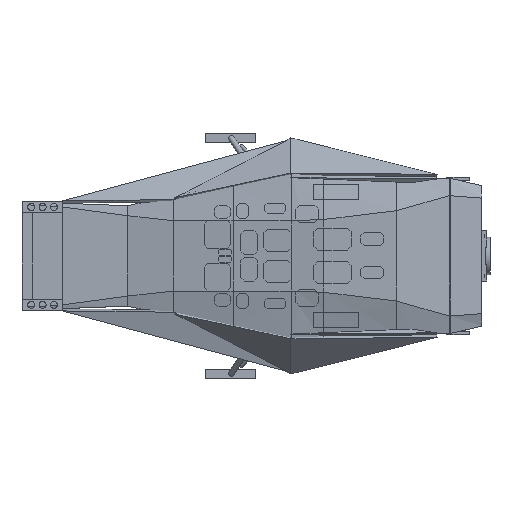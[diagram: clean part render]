
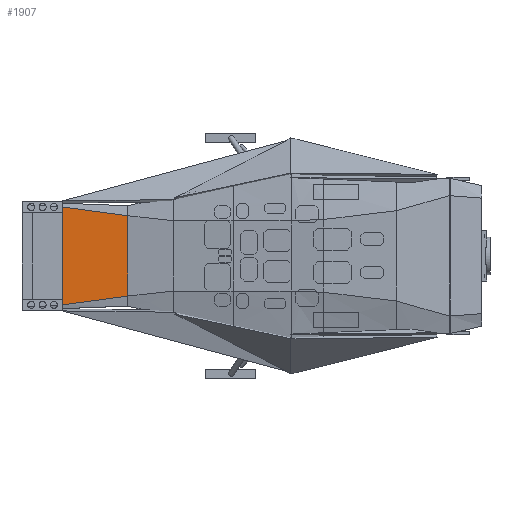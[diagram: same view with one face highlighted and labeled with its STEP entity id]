
A CAD part, top view. The second image highlights one B-rep face of the part: STEP entity #1907.
In plain terms, the highlighted free-form (B-spline) face has degree [1, 1] with [2, 2] control points.
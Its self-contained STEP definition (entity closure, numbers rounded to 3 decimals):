
#195 = B_SPLINE_SURFACE_WITH_KNOTS('',1,1,(
    (#196,#197)
    ,(#198,#199
  )),.UNSPECIFIED.,.F.,.F.,.F.,(2,2),(2,2),(0.,4.1),(0.,1.),
  .PIECEWISE_BEZIER_KNOTS.);
#196 = CARTESIAN_POINT('',(0.,28.472,3.194));
#197 = CARTESIAN_POINT('',(22.222,27.083,
    3.472));
#198 = CARTESIAN_POINT('',(0.,-28.472,3.194));
#199 = CARTESIAN_POINT('',(22.222,-27.083,
    3.472));
#317 = VERTEX_POINT('',#318);
#318 = CARTESIAN_POINT('',(22.222,-27.083,
    3.472));
#331 = B_SPLINE_SURFACE_WITH_KNOTS('',1,1,(
    (#332,#333)
    ,(#334,#335
    )),.UNSPECIFIED.,.F.,.F.,.F.,(2,2),(2,2),(0.,0.408),(0.,1.)
  ,.PIECEWISE_BEZIER_KNOTS.);
#332 = CARTESIAN_POINT('',(22.222,-27.083,
    3.472));
#333 = CARTESIAN_POINT('',(58.333,-22.222,
    4.583));
#334 = CARTESIAN_POINT('',(22.222,-29.167,
    2.917));
#335 = CARTESIAN_POINT('',(58.333,-27.778,
    3.472));
#365 = EDGE_CURVE('',#366,#317,#368,.T.);
#366 = VERTEX_POINT('',#367);
#367 = CARTESIAN_POINT('',(22.222,27.083,
    3.472));
#368 = SURFACE_CURVE('',#369,(#373,#379),.PCURVE_S1.);
#369 = LINE('',#370,#371);
#370 = CARTESIAN_POINT('',(22.222,27.083,
    3.472));
#371 = VECTOR('',#372,1.);
#372 = DIRECTION('',(0.,-1.,0.));
#373 = PCURVE('',#195,#374);
#374 = DEFINITIONAL_REPRESENTATION('',(#375),#378);
#375 = B_SPLINE_CURVE_WITH_KNOTS('',1,(#376,#377),.UNSPECIFIED.,.F.,.F.,
  (2,2),(0.,54.167),.PIECEWISE_BEZIER_KNOTS.);
#376 = CARTESIAN_POINT('',(0.,1.));
#377 = CARTESIAN_POINT('',(4.1,1.));
#378 = ( GEOMETRIC_REPRESENTATION_CONTEXT(2) 
PARAMETRIC_REPRESENTATION_CONTEXT() REPRESENTATION_CONTEXT('2D SPACE',''
  ) );
#379 = PCURVE('',#380,#385);
#380 = B_SPLINE_SURFACE_WITH_KNOTS('',1,1,(
    (#381,#382)
    ,(#383,#384
  )),.UNSPECIFIED.,.F.,.F.,.F.,(2,2),(2,2),(0.,3.9),(0.,1.),
  .PIECEWISE_BEZIER_KNOTS.);
#381 = CARTESIAN_POINT('',(22.222,27.083,
    3.472));
#382 = CARTESIAN_POINT('',(58.333,22.222,
    4.583));
#383 = CARTESIAN_POINT('',(22.222,-27.083,
    3.472));
#384 = CARTESIAN_POINT('',(58.333,-22.222,
    4.583));
#385 = DEFINITIONAL_REPRESENTATION('',(#386),#389);
#386 = B_SPLINE_CURVE_WITH_KNOTS('',1,(#387,#388),.UNSPECIFIED.,.F.,.F.,
  (2,2),(0.,54.167),.PIECEWISE_BEZIER_KNOTS.);
#387 = CARTESIAN_POINT('',(0.,0.));
#388 = CARTESIAN_POINT('',(3.9,0.));
#389 = ( GEOMETRIC_REPRESENTATION_CONTEXT(2) 
PARAMETRIC_REPRESENTATION_CONTEXT() REPRESENTATION_CONTEXT('2D SPACE',''
  ) );
#429 = B_SPLINE_SURFACE_WITH_KNOTS('',1,1,(
    (#430,#431)
    ,(#432,#433
    )),.UNSPECIFIED.,.F.,.F.,.F.,(2,2),(2,2),(0.,0.408),(0.,1.)
  ,.PIECEWISE_BEZIER_KNOTS.);
#430 = CARTESIAN_POINT('',(22.222,29.167,
    2.917));
#431 = CARTESIAN_POINT('',(58.333,27.778,
    3.472));
#432 = CARTESIAN_POINT('',(22.222,27.083,
    3.472));
#433 = CARTESIAN_POINT('',(58.333,22.222,
    4.583));
#1865 = VERTEX_POINT('',#1866);
#1866 = CARTESIAN_POINT('',(58.333,-22.222,
    4.583));
#1890 = EDGE_CURVE('',#317,#1865,#1891,.T.);
#1891 = SURFACE_CURVE('',#1892,(#1895,#1901),.PCURVE_S1.);
#1892 = B_SPLINE_CURVE_WITH_KNOTS('',1,(#1893,#1894),.UNSPECIFIED.,.F.,
  .F.,(2,2),(0.,1.),.PIECEWISE_BEZIER_KNOTS.);
#1893 = CARTESIAN_POINT('',(22.222,-27.083,
    3.472));
#1894 = CARTESIAN_POINT('',(58.333,-22.222,
    4.583));
#1895 = PCURVE('',#331,#1896);
#1896 = DEFINITIONAL_REPRESENTATION('',(#1897),#1900);
#1897 = B_SPLINE_CURVE_WITH_KNOTS('',1,(#1898,#1899),.UNSPECIFIED.,.F.,
  .F.,(2,2),(0.,1.),.PIECEWISE_BEZIER_KNOTS.);
#1898 = CARTESIAN_POINT('',(0.,0.));
#1899 = CARTESIAN_POINT('',(0.,1.));
#1900 = ( GEOMETRIC_REPRESENTATION_CONTEXT(2) 
PARAMETRIC_REPRESENTATION_CONTEXT() REPRESENTATION_CONTEXT('2D SPACE',''
  ) );
#1901 = PCURVE('',#380,#1902);
#1902 = DEFINITIONAL_REPRESENTATION('',(#1903),#1906);
#1903 = B_SPLINE_CURVE_WITH_KNOTS('',1,(#1904,#1905),.UNSPECIFIED.,.F.,
  .F.,(2,2),(0.,1.),.PIECEWISE_BEZIER_KNOTS.);
#1904 = CARTESIAN_POINT('',(3.9,0.));
#1905 = CARTESIAN_POINT('',(3.9,1.));
#1906 = ( GEOMETRIC_REPRESENTATION_CONTEXT(2) 
PARAMETRIC_REPRESENTATION_CONTEXT() REPRESENTATION_CONTEXT('2D SPACE',''
  ) );
#1907 = ADVANCED_FACE('',(#1908),#380,.T.);
#1908 = FACE_BOUND('',#1909,.T.);
#1909 = EDGE_LOOP('',(#1910,#1911,#1912,#1938));
#1910 = ORIENTED_EDGE('',*,*,#365,.T.);
#1911 = ORIENTED_EDGE('',*,*,#1890,.T.);
#1912 = ORIENTED_EDGE('',*,*,#1913,.F.);
#1913 = EDGE_CURVE('',#1914,#1865,#1916,.T.);
#1914 = VERTEX_POINT('',#1915);
#1915 = CARTESIAN_POINT('',(58.333,22.222,
    4.583));
#1916 = SURFACE_CURVE('',#1917,(#1921,#1927),.PCURVE_S1.);
#1917 = LINE('',#1918,#1919);
#1918 = CARTESIAN_POINT('',(58.333,22.222,
    4.583));
#1919 = VECTOR('',#1920,1.);
#1920 = DIRECTION('',(0.,-1.,0.));
#1921 = PCURVE('',#380,#1922);
#1922 = DEFINITIONAL_REPRESENTATION('',(#1923),#1926);
#1923 = B_SPLINE_CURVE_WITH_KNOTS('',1,(#1924,#1925),.UNSPECIFIED.,.F.,
  .F.,(2,2),(0.,44.444),.PIECEWISE_BEZIER_KNOTS.);
#1924 = CARTESIAN_POINT('',(0.,1.));
#1925 = CARTESIAN_POINT('',(3.9,1.));
#1926 = ( GEOMETRIC_REPRESENTATION_CONTEXT(2) 
PARAMETRIC_REPRESENTATION_CONTEXT() REPRESENTATION_CONTEXT('2D SPACE',''
  ) );
#1927 = PCURVE('',#1928,#1933);
#1928 = B_SPLINE_SURFACE_WITH_KNOTS('',1,1,(
    (#1929,#1930)
    ,(#1931,#1932
    )),.UNSPECIFIED.,.F.,.F.,.F.,(2,2),(2,2),(0.,3.2),(0.,1.),
  .PIECEWISE_BEZIER_KNOTS.);
#1929 = CARTESIAN_POINT('',(58.333,22.222,
    4.583));
#1930 = CARTESIAN_POINT('',(83.333,19.444,8.75));
#1931 = CARTESIAN_POINT('',(58.333,-22.222,
    4.583));
#1932 = CARTESIAN_POINT('',(83.333,-19.444,8.75));
#1933 = DEFINITIONAL_REPRESENTATION('',(#1934),#1937);
#1934 = B_SPLINE_CURVE_WITH_KNOTS('',1,(#1935,#1936),.UNSPECIFIED.,.F.,
  .F.,(2,2),(0.,44.444),.PIECEWISE_BEZIER_KNOTS.);
#1935 = CARTESIAN_POINT('',(0.,0.));
#1936 = CARTESIAN_POINT('',(3.2,0.));
#1937 = ( GEOMETRIC_REPRESENTATION_CONTEXT(2) 
PARAMETRIC_REPRESENTATION_CONTEXT() REPRESENTATION_CONTEXT('2D SPACE',''
  ) );
#1938 = ORIENTED_EDGE('',*,*,#1939,.F.);
#1939 = EDGE_CURVE('',#366,#1914,#1940,.T.);
#1940 = SURFACE_CURVE('',#1941,(#1944,#1950),.PCURVE_S1.);
#1941 = B_SPLINE_CURVE_WITH_KNOTS('',1,(#1942,#1943),.UNSPECIFIED.,.F.,
  .F.,(2,2),(0.,1.),.PIECEWISE_BEZIER_KNOTS.);
#1942 = CARTESIAN_POINT('',(22.222,27.083,
    3.472));
#1943 = CARTESIAN_POINT('',(58.333,22.222,
    4.583));
#1944 = PCURVE('',#380,#1945);
#1945 = DEFINITIONAL_REPRESENTATION('',(#1946),#1949);
#1946 = B_SPLINE_CURVE_WITH_KNOTS('',1,(#1947,#1948),.UNSPECIFIED.,.F.,
  .F.,(2,2),(0.,1.),.PIECEWISE_BEZIER_KNOTS.);
#1947 = CARTESIAN_POINT('',(0.,0.));
#1948 = CARTESIAN_POINT('',(0.,1.));
#1949 = ( GEOMETRIC_REPRESENTATION_CONTEXT(2) 
PARAMETRIC_REPRESENTATION_CONTEXT() REPRESENTATION_CONTEXT('2D SPACE',''
  ) );
#1950 = PCURVE('',#429,#1951);
#1951 = DEFINITIONAL_REPRESENTATION('',(#1952),#1955);
#1952 = B_SPLINE_CURVE_WITH_KNOTS('',1,(#1953,#1954),.UNSPECIFIED.,.F.,
  .F.,(2,2),(0.,1.),.PIECEWISE_BEZIER_KNOTS.);
#1953 = CARTESIAN_POINT('',(0.408,0.));
#1954 = CARTESIAN_POINT('',(0.408,1.));
#1955 = ( GEOMETRIC_REPRESENTATION_CONTEXT(2) 
PARAMETRIC_REPRESENTATION_CONTEXT() REPRESENTATION_CONTEXT('2D SPACE',''
  ) );
